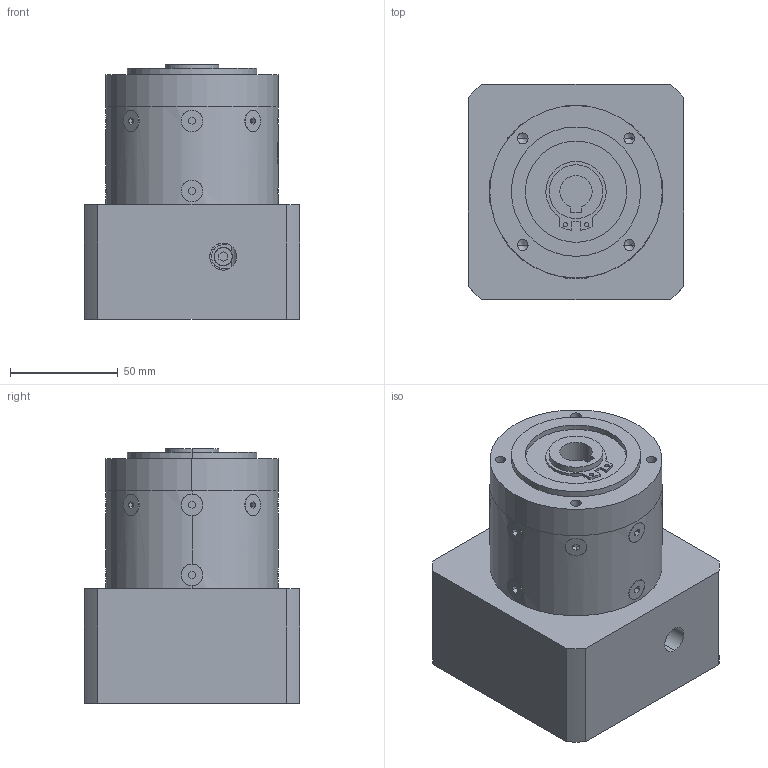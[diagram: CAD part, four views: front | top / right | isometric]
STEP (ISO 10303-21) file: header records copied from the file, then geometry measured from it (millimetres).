
FILE_DESCRIPTION (( 'STEP AP203' ), '1' );
FILE_NAME ('PBE80-L1-19-95-115.STEP', '2022-07-23T08:05:24', ( 'Windows User' ), ( 'P R C' ), 'SwSTEP 2.0', 'SolidWorks 2016', '' );
FILE_SCHEMA (( 'CONFIG_CONTROL_DESIGN' ));
Length unit declared in the file: millimetre
Products named in the file (7): PBE80 奻屳唳; PBE80 薊粣ん_D7-19 梓袧; PBE80 内齿圈-孔输出-B版_一级内齿圈; 囀鞠褒蹟佪-M5℅20; PBE80 蟀諉啣-95-M8-115-100遺-LR57; 粣創-6006 30x55x13; PBE80-L1-19-95-115
Assembly tree (6 placements, depth 2):
  PBE80-L1-19-95-115
    PBE80 奻屳唳
    PBE80 薊粣ん_D7-19 梓袧
    PBE80 内齿圈-孔输出-B版_一级内齿圈
    囀鞠褒蹟佪-M5℅20
    PBE80 蟀諉啣-95-M8-115-100遺-LR57
    粣創-6006 30x55x13
Bounding box: 100 x 100 x 118 mm (x, y, z)
Volume: 668479.4 mm3; surface area: 134998.2 mm2
Topology: 6 solids, 6 shells, 1117 faces, 3019 edges, 1985 vertices
Faces by surface type: plane 605, bspline 306, cylinder 178, cone 28
Entity records: 47786 total; most frequent: CARTESIAN_POINT 21011, ORIENTED_EDGE 5990, DIRECTION 4472, EDGE_CURVE 2995, VERTEX_POINT 1985, VECTOR 1560, LINE 1560, AXIS2_PLACEMENT_3D 1456
